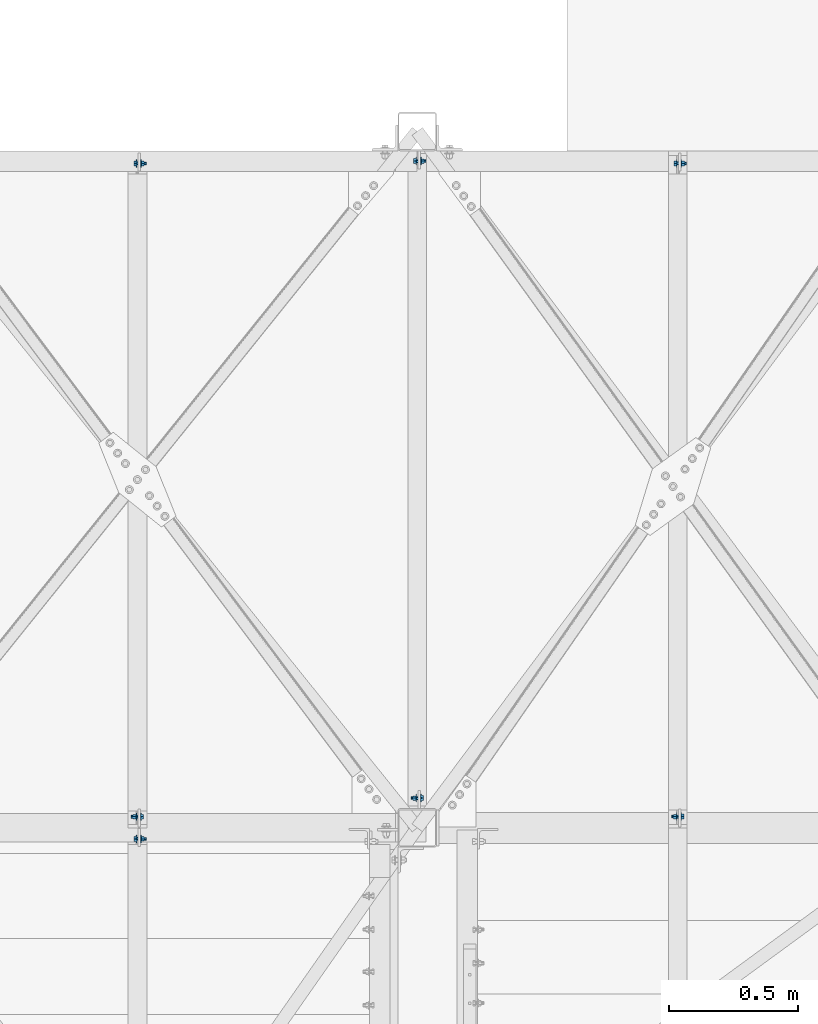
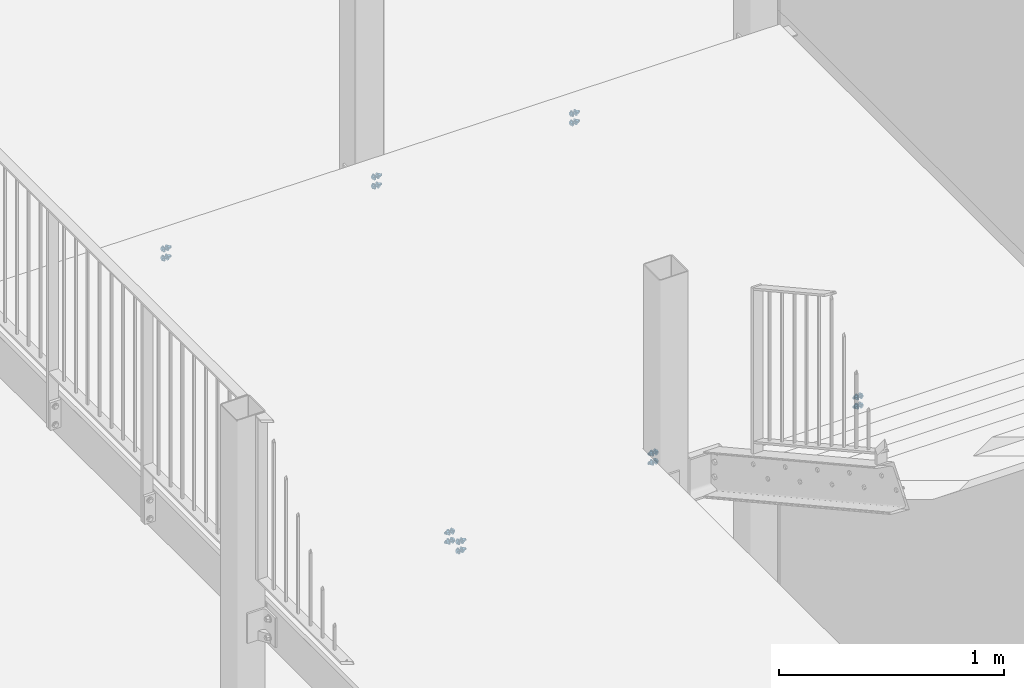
# One storey, part 77 of 78: 7 mechanical fasteners, 4 elements without a shape of their own.
"""IFC2X3 building model written with IfcOpenShell, lengths in millimetres."""

from ifc_helpers import new_model, si_unit, frame, origin_with_axes, origin_2d_with_axis, place, context, subcontext, project, spatial, polyline, circle, outline, extrude, source, transform, mapped, material, type_object, element, aggregate, save


model = new_model("IFC2X3")

# Units and contexts
model_context = context("Model", 3, precision=1e-05, world=origin_with_axes())
body_context = subcontext(model_context, "Body", "Model", "MODEL_VIEW")
ifc_project = project(units=[si_unit("LENGTHUNIT", "METRE", prefix="MILLI"), si_unit("AREAUNIT", "SQUARE_METRE"), si_unit("VOLUMEUNIT", "CUBIC_METRE"), si_unit("MASSUNIT", "GRAM", prefix="KILO"), si_unit("TIMEUNIT", "SECOND"), si_unit("PLANEANGLEUNIT", "RADIAN"), si_unit("SOLIDANGLEUNIT", "STERADIAN"), si_unit("THERMODYNAMICTEMPERATUREUNIT", "DEGREE_CELSIUS"), si_unit("LUMINOUSINTENSITYUNIT", "LUMEN")], contexts=[model_context])

# Site, building, storey
site_placement = place(None, origin_with_axes())
site = spatial("IfcSite", under=ifc_project, at=site_placement, Name="Site", CompositionType="ELEMENT")
building_placement = place(site_placement, origin_with_axes())
building = spatial("IfcBuilding", under=site, at=building_placement, Name="Undefined", CompositionType="ELEMENT")
storey_placement = place(building_placement, origin_with_axes())
storey = spatial("IfcBuildingStorey", under=building, at=storey_placement, Name="Undefined", CompositionType="ELEMENT", Elevation=0.0)

# Assembly, mechanical fastener
assembly_1_placement = place(storey_placement, origin_with_axes())
assembly_1 = element("IfcElementAssembly", 1, at=assembly_1_placement, inside=storey, AssemblyPlace="NOTDEFINED", PredefinedType="RIGID_FRAME")
ifc_material = material(Name="8.8")
mechanical_fastener_type = type_object("IfcMechanicalFastenerType", Name="Bolt assembly")
shared_shape_1 = source(origin_with_axes(), body_context, "Body", "SweptSolid", [
    extrude(circle(Radius=7.0, at=origin_2d_with_axis()), frame((0.0, 2.2499999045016, 0.0), z_axis=(0.0, 1.0, 0.0), x_axis=(1.0, 0.0, 0.0)), (0.0, 0.0, 1.0), 10.1),
    extrude(circle(Radius=7.0, at=origin_2d_with_axis()), frame((0.0, -2.2499999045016, 0.0), z_axis=(0.0, 1.0, 0.0), x_axis=(1.0, 0.0, 0.0)), (0.0, 0.0, 1.0), 4.7),
    extrude(outline(polyline([(10.96965511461, 0.0), (5.484827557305, 9.50000000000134), (-5.484827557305, 9.50000000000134), (-10.96965511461, 0.0), (-5.484827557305, -9.50000000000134), (5.484827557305, -9.50000000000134), (10.96965511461, 0.0)])), frame((0.0, -13.5499999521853, 0.0), z_axis=(0.0, 1.0, 0.0), x_axis=(1.0, 0.0, 0.0)), (0.0, 0.0, 1.0), 8.0),
    extrude(circle(Radius=6.0, at=origin_2d_with_axis()), frame((0.0, -5.54999995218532, 0.0), z_axis=(0.0, 1.0, 0.0), x_axis=(1.0, 0.0, 0.0)), (0.0, 0.0, 1.0), 40.0),
    extrude(circle(Radius=15.5, at=origin_2d_with_axis()), frame((0.0, -5.54999995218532, 0.0), z_axis=(0.0, 1.0, 0.0), x_axis=(1.0, 0.0, 0.0)), (0.0, 0.0, 1.0), 3.2),
    extrude(circle(Radius=15.5, at=origin_2d_with_axis()), frame((0.0, 12.3499999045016, 0.0), z_axis=(0.0, 1.0, 0.0), x_axis=(1.0, 0.0, 0.0)), (0.0, 0.0, 1.0), 3.2),
    extrude(outline(polyline([(10.39230484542, 0.0), (5.19615242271, 9.00000000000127), (-5.19615242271, 9.00000000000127), (-10.39230484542, 0.0), (-5.19615242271, -9.00000000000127), (5.19615242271, -9.00000000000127), (10.39230484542, 0.0)])), frame((0.0, 15.5499999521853, 0.0), z_axis=(0.0, 1.0, 0.0), x_axis=(1.0, 0.0, 0.0)), (0.0, 0.0, 1.0), 10.8),
])
mechanical_fastener_1_placement = place(assembly_1_placement, frame((-32206.43, 12684.0, 156620.04), z_axis=(0.0, -1.0, 0.0), x_axis=(0.0, 0.0, -1.0)))
mechanical_fastener_1 = element("IfcMechanicalFastener", 2, at=mechanical_fastener_1_placement, type_object=mechanical_fastener_type, material=ifc_material, Name="Bolt assembly", NominalDiameter=12.0, NominalLength=40.0, context=body_context, shape_type="MappedRepresentation", body=[
    mapped(shared_shape_1, transform((0.0, 0.0, 0.0))),
    mapped(shared_shape_1, transform((49.9999999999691, 0.0, 7.27595761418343e-12))),
])

assembly_2_placement = place(storey_placement, origin_with_axes())
assembly_2 = element("IfcElementAssembly", 3, at=assembly_2_placement, inside=storey, AssemblyPlace="NOTDEFINED", PredefinedType="RIGID_FRAME")
mechanical_fastener_2_placement = place(assembly_2_placement, frame((-33216.43, 12693.0, 156625.04), z_axis=(0.0, -1.0, 0.0), x_axis=(0.0, 0.0, -1.0)))
mechanical_fastener_2 = element("IfcMechanicalFastener", 4, at=mechanical_fastener_2_placement, type_object=mechanical_fastener_type, material=ifc_material, Name="Bolt assembly", NominalDiameter=12.0, NominalLength=40.0, context=body_context, shape_type="MappedRepresentation", body=[
    mapped(shared_shape_1, transform((0.0, 0.0, 0.0))),
    mapped(shared_shape_1, transform((49.9999999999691, 0.0, 7.27595761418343e-12))),
])

assembly_3_placement = place(storey_placement, origin_with_axes())
assembly_3 = element("IfcElementAssembly", 5, at=assembly_3_placement, inside=storey, AssemblyPlace="NOTDEFINED", PredefinedType="RIGID_FRAME")
mechanical_fastener_3_placement = place(assembly_3_placement, frame((-34301.43, 10065.0499999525, 156620.04), z_axis=(0.0, -1.0, 0.0), x_axis=(0.0, 0.0, -1.0)))
mechanical_fastener_3 = element("IfcMechanicalFastener", 6, at=mechanical_fastener_3_placement, type_object=mechanical_fastener_type, material=ifc_material, Name="Bolt assembly", NominalDiameter=12.0, NominalLength=40.0, context=body_context, shape_type="MappedRepresentation", body=[
    mapped(shared_shape_1, transform((0.0, 0.0, 0.0))),
    mapped(shared_shape_1, transform((49.9999999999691, 0.0, 7.27595761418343e-12))),
])
aggregate(assembly_3, [mechanical_fastener_3])

assembly_4_placement = place(storey_placement, origin_with_axes())
assembly_4 = element("IfcElementAssembly", 7, at=assembly_4_placement, inside=storey, AssemblyPlace="NOTDEFINED", PredefinedType="RIGID_FRAME")
mechanical_fastener_4_placement = place(assembly_4_placement, frame((-34301.43, 12684.0, 156620.04), z_axis=(0.0, -1.0, 0.0), x_axis=(0.0, 0.0, -1.0)))
mechanical_fastener_4 = element("IfcMechanicalFastener", 8, at=mechanical_fastener_4_placement, type_object=mechanical_fastener_type, material=ifc_material, Name="Bolt assembly", NominalDiameter=12.0, NominalLength=40.0, context=body_context, shape_type="MappedRepresentation", body=[
    mapped(shared_shape_1, transform((0.0, 0.0, 0.0))),
    mapped(shared_shape_1, transform((49.9999999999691, 0.0, 7.27595761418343e-12))),
])

# Mechanical fastener
shared_shape_2 = source(origin_with_axes(), body_context, "Body", "SweptSolid", [
    extrude(circle(Radius=7.0, at=origin_2d_with_axis()), frame((0.0, -12.2499999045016, 0.0), z_axis=(0.0, 1.0, 0.0), x_axis=(1.0, 0.0, 0.0)), (0.0, 0.0, 1.0), 10.0),
    extrude(circle(Radius=7.0, at=origin_2d_with_axis()), frame((0.0, -2.4499999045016, 0.0), z_axis=(0.0, 1.0, 0.0), x_axis=(1.0, 0.0, 0.0)), (0.0, 0.0, 1.0), 4.8),
    extrude(outline(polyline([(10.96965511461, 0.0), (5.484827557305, 9.50000000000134), (-5.484827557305, 9.50000000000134), (-10.96965511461, 0.0), (-5.484827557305, -9.50000000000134), (5.484827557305, -9.50000000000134), (10.96965511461, 0.0)])), frame((0.0, -23.5499999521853, 0.0), z_axis=(0.0, 1.0, 0.0), x_axis=(1.0, 0.0, 0.0)), (0.0, 0.0, 1.0), 8.0),
    extrude(circle(Radius=6.0, at=origin_2d_with_axis()), frame((0.0, -15.5499999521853, 0.0), z_axis=(0.0, 1.0, 0.0), x_axis=(1.0, 0.0, 0.0)), (0.0, 0.0, 1.0), 40.0),
    extrude(circle(Radius=15.5, at=origin_2d_with_axis()), frame((0.0, -15.5499999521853, 0.0), z_axis=(0.0, 1.0, 0.0), x_axis=(1.0, 0.0, 0.0)), (0.0, 0.0, 1.0), 3.2),
    extrude(circle(Radius=15.5, at=origin_2d_with_axis()), frame((0.0, 2.3499999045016, 0.0), z_axis=(0.0, 1.0, 0.0), x_axis=(1.0, 0.0, 0.0)), (0.0, 0.0, 1.0), 3.2),
    extrude(outline(polyline([(10.39230484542, 0.0), (5.19615242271, 9.00000000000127), (-5.19615242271, 9.00000000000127), (-10.39230484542, 0.0), (-5.19615242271, -9.00000000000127), (5.19615242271, -9.00000000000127), (10.39230484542, 0.0)])), frame((0.0, 5.54999995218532, 0.0), z_axis=(0.0, 1.0, 0.0), x_axis=(1.0, 0.0, 0.0)), (0.0, 0.0, 1.0), 10.8),
])
mechanical_fastener_5_placement = place(assembly_1_placement, frame((-32206.43, 10151.0999999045, 156620.04), z_axis=(0.0, 1.0, 0.0), x_axis=(0.0, 0.0, -1.0)))
mechanical_fastener_5 = element("IfcMechanicalFastener", 9, at=mechanical_fastener_5_placement, type_object=mechanical_fastener_type, material=ifc_material, Name="Bolt assembly", NominalDiameter=12.0, NominalLength=40.0, context=body_context, shape_type="MappedRepresentation", body=[
    mapped(shared_shape_2, transform((0.0, 0.0, 0.0))),
    mapped(shared_shape_2, transform((49.9999999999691, 0.0, 7.27595761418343e-12))),
])

aggregate(assembly_1, [mechanical_fastener_1, mechanical_fastener_5])

mechanical_fastener_6_placement = place(assembly_2_placement, frame((-33216.43, 10223.0, 156625.04), z_axis=(0.0, 1.0, 0.0), x_axis=(0.0, 0.0, -1.0)))
mechanical_fastener_6 = element("IfcMechanicalFastener", 10, at=mechanical_fastener_6_placement, type_object=mechanical_fastener_type, material=ifc_material, Name="Bolt assembly", NominalDiameter=12.0, NominalLength=40.0, context=body_context, shape_type="MappedRepresentation", body=[
    mapped(shared_shape_2, transform((0.0, 0.0, 0.0))),
    mapped(shared_shape_2, transform((49.9999999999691, 0.0, 7.27595761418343e-12))),
])

aggregate(assembly_2, [mechanical_fastener_2, mechanical_fastener_6])

mechanical_fastener_7_placement = place(assembly_4_placement, frame((-34301.43, 10150.9500000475, 156620.04), z_axis=(0.0, 1.0, 0.0), x_axis=(0.0, 0.0, -1.0)))
mechanical_fastener_7 = element("IfcMechanicalFastener", 11, at=mechanical_fastener_7_placement, type_object=mechanical_fastener_type, material=ifc_material, Name="Bolt assembly", NominalDiameter=12.0, NominalLength=40.0, context=body_context, shape_type="MappedRepresentation", body=[
    mapped(shared_shape_2, transform((0.0, 0.0, 0.0))),
    mapped(shared_shape_2, transform((49.9999999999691, 0.0, 7.27595761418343e-12))),
])

aggregate(assembly_4, [mechanical_fastener_7, mechanical_fastener_4])

save(model, "model.ifc")
